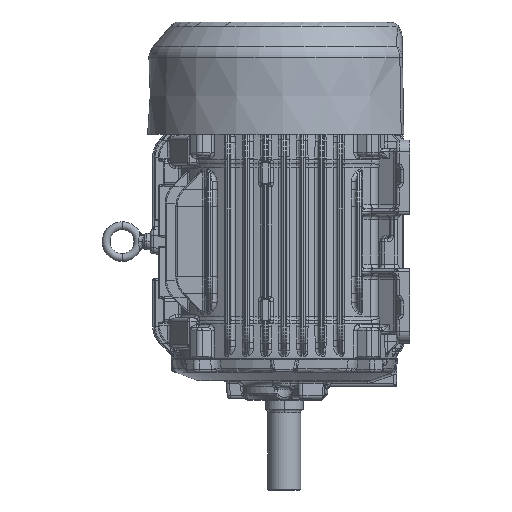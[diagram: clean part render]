
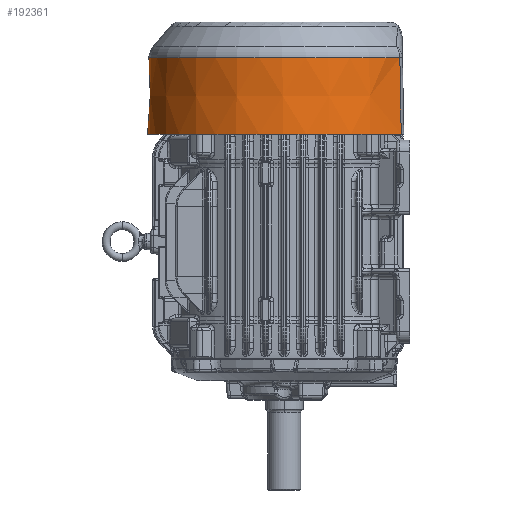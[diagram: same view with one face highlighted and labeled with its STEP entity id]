
A CAD part, left-side view. The second image highlights one B-rep face of the part: STEP entity #192361.
In plain terms, the highlighted conical face has half-angle 1 degrees and reference radius 144.442 mm.
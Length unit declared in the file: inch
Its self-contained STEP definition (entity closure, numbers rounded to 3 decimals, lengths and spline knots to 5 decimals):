
#188399=CARTESIAN_POINT('',(-2.9537,-4.89206,0.));
#188411=CARTESIAN_POINT('',(2.9537,-4.89206,0.));
#188417=CARTESIAN_POINT('',(-2.94015,-4.83504,
-3.19811));
#188418=CARTESIAN_POINT('',(-2.94164,-4.84129,
-2.84735));
#188419=CARTESIAN_POINT('',(-2.94461,-4.85382,
-2.14348));
#188420=CARTESIAN_POINT('',(-2.94888,-4.87175,
-1.13907));
#188421=CARTESIAN_POINT('',(-2.95206,-4.88516,
-0.38695));
#188422=CARTESIAN_POINT('',(-2.9537,-4.89206,0.));
#188424=CARTESIAN_POINT('',(0.,0.,-3.19811));
#188425=DIRECTION('',(0.,0.,-1.));
#188426=DIRECTION('',(-0.52,-0.854,0.));
#188427=AXIS2_PLACEMENT_3D('',#188424,#188425,#188426);
#188429=CARTESIAN_POINT('',(2.9537,-4.89206,0.));
#188430=CARTESIAN_POINT('',(2.95268,-4.88775,
-0.24197));
#188431=CARTESIAN_POINT('',(2.95058,-4.87893,
-0.73631));
#188432=CARTESIAN_POINT('',(2.94734,-4.86529,
-1.50131));
#188433=CARTESIAN_POINT('',(2.9439,-4.85081,
-2.31281));
#188434=CARTESIAN_POINT('',(2.94142,-4.8404,
-2.89654));
#188435=CARTESIAN_POINT('',(2.94014,-4.83501,
-3.19811));
#188437=CARTESIAN_POINT('',(0.,0.,0.));
#188438=DIRECTION('',(0.,0.,1.));
#188439=DIRECTION('',(0.517,-0.856,0.));
#188440=AXIS2_PLACEMENT_3D('',#188437,#188438,#188439);
#191476=VERTEX_POINT('',#188399);
#191479=VERTEX_POINT('',#188417);
#191487=CARTESIAN_POINT('',(2.94006,-4.83506,
-3.19811));
#191488=VERTEX_POINT('',#191487);
#191490=VERTEX_POINT('',#188411);
#192348=CARTESIAN_POINT('',(0.,0.,-1.59906));
#192349=DIRECTION('',(0.,0.,1.));
#192350=DIRECTION('',(0.,1.,0.));
#192351=AXIS2_PLACEMENT_3D('',#192348,#192349,#192350);
#192352=CONICAL_SURFACE('',#192351,5.68669,1.);
#192353=ORIENTED_EDGE('',*,*,#192329,.F.);
#192355=ORIENTED_EDGE('',*,*,#192354,.T.);
#192357=ORIENTED_EDGE('',*,*,#192356,.F.);
#192358=ORIENTED_EDGE('',*,*,#192340,.T.);
#192359=EDGE_LOOP('',(#192353,#192355,#192357,#192358));
#192360=FACE_OUTER_BOUND('',#192359,.F.);
#192361=ADVANCED_FACE('',(#192360),#192352,.T.);
#188423=B_SPLINE_CURVE_WITH_KNOTS('',3,(#188417,#188418,#188419,#188420,#188421,
#188422),.UNSPECIFIED.,.F.,.F.,(4,1,1,4),(0.,0.33333,
0.66667,1.),.UNSPECIFIED.);
#188428=CIRCLE('',#188427,5.65878);
#188436=B_SPLINE_CURVE_WITH_KNOTS('',3,(#188429,#188430,#188431,#188432,#188433,
#188434,#188435),.UNSPECIFIED.,.F.,.F.,(4,1,1,1,4),(0.,0.25,0.5,0.75,
1.),.UNSPECIFIED.);
#188441=CIRCLE('',#188440,5.7146);
#192329=EDGE_CURVE('',#191479,#191476,#188423,.T.);
#192340=EDGE_CURVE('',#191490,#191476,#188441,.T.);
#192354=EDGE_CURVE('',#191479,#191488,#188428,.T.);
#192356=EDGE_CURVE('',#191490,#191488,#188436,.T.);
